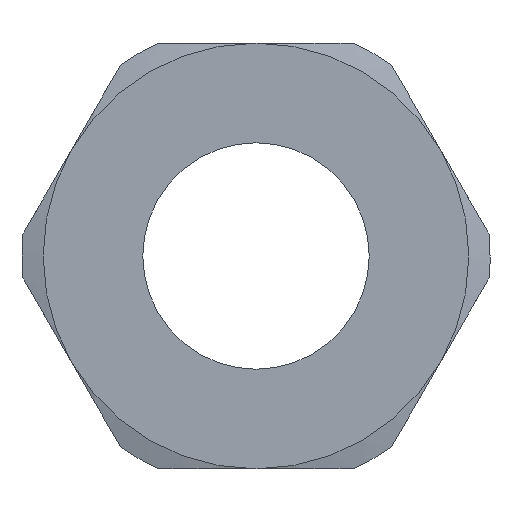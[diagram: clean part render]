
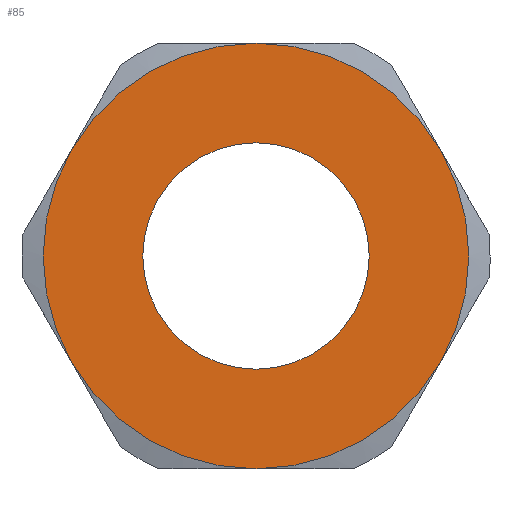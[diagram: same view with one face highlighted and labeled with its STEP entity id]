
A CAD part, left-side view. The second image highlights one B-rep face of the part: STEP entity #85.
In plain terms, the highlighted planar face has unit normal (-1, 0, 0).
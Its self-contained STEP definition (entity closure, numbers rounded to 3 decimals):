
#85 = ADVANCED_FACE( '', ( #123, #124 ), #125, .F. );
#123 = FACE_OUTER_BOUND( '', #180, .T. );
#124 = FACE_BOUND( '', #181, .T. );
#125 = PLANE( '', #182 );
#180 = EDGE_LOOP( '', ( #297, #298, #299, #300, #301, #302 ) );
#181 = EDGE_LOOP( '', ( #303 ) );
#182 = AXIS2_PLACEMENT_3D( '', #304, #305, #306 );
#297 = ORIENTED_EDGE( '', *, *, #459, .F. );
#298 = ORIENTED_EDGE( '', *, *, #461, .F. );
#299 = ORIENTED_EDGE( '', *, *, #462, .F. );
#300 = ORIENTED_EDGE( '', *, *, #463, .F. );
#301 = ORIENTED_EDGE( '', *, *, #455, .F. );
#302 = ORIENTED_EDGE( '', *, *, #457, .F. );
#303 = ORIENTED_EDGE( '', *, *, #464, .T. );
#304 = CARTESIAN_POINT( '', ( 0., 0., 0. ) );
#305 = DIRECTION( '', ( 1., 0., 0. ) );
#306 = DIRECTION( '', ( 0., 0., -1. ) );
#455 = EDGE_CURVE( '', #493, #548, #549, .T. );
#457 = EDGE_CURVE( '', #543, #493, #551, .T. );
#459 = EDGE_CURVE( '', #534, #543, #553, .T. );
#461 = EDGE_CURVE( '', #513, #534, #555, .T. );
#462 = EDGE_CURVE( '', #525, #513, #556, .T. );
#463 = EDGE_CURVE( '', #548, #525, #557, .T. );
#464 = EDGE_CURVE( '', #558, #558, #559, .T. );
#493 = VERTEX_POINT( '', #601 );
#513 = VERTEX_POINT( '', #641 );
#525 = VERTEX_POINT( '', #667 );
#534 = VERTEX_POINT( '', #687 );
#543 = VERTEX_POINT( '', #707 );
#548 = VERTEX_POINT( '', #718 );
#549 = CIRCLE( '', #719, 6.5 );
#551 = CIRCLE( '', #724, 6.5 );
#553 = CIRCLE( '', #726, 6.5 );
#555 = CIRCLE( '', #728, 6.5 );
#556 = CIRCLE( '', #729, 6.5 );
#557 = CIRCLE( '', #730, 6.5 );
#558 = VERTEX_POINT( '', #731 );
#559 = CIRCLE( '', #732, 3.459 );
#601 = CARTESIAN_POINT( '', ( 0., 0., 6.5 ) );
#641 = CARTESIAN_POINT( '', ( 0., 0., -6.5 ) );
#667 = CARTESIAN_POINT( '', ( 0., -5.629, -3.25 ) );
#687 = CARTESIAN_POINT( '', ( 0., 5.629, -3.25 ) );
#707 = CARTESIAN_POINT( '', ( 0., 5.629, 3.25 ) );
#718 = CARTESIAN_POINT( '', ( 0., -5.629, 3.25 ) );
#719 = AXIS2_PLACEMENT_3D( '', #787, #788, #789 );
#724 = AXIS2_PLACEMENT_3D( '', #790, #791, #792 );
#726 = AXIS2_PLACEMENT_3D( '', #796, #797, #798 );
#728 = AXIS2_PLACEMENT_3D( '', #802, #803, #804 );
#729 = AXIS2_PLACEMENT_3D( '', #805, #806, #807 );
#730 = AXIS2_PLACEMENT_3D( '', #808, #809, #810 );
#731 = CARTESIAN_POINT( '', ( 0., 0., -3.459 ) );
#732 = AXIS2_PLACEMENT_3D( '', #811, #812, #813 );
#787 = CARTESIAN_POINT( '', ( 0., 0., 0. ) );
#788 = DIRECTION( '', ( 1., 0., 0. ) );
#789 = DIRECTION( '', ( 0., 0., -1. ) );
#790 = CARTESIAN_POINT( '', ( 0., 0., 0. ) );
#791 = DIRECTION( '', ( 1., 0., 0. ) );
#792 = DIRECTION( '', ( 0., 0., -1. ) );
#796 = CARTESIAN_POINT( '', ( 0., 0., 0. ) );
#797 = DIRECTION( '', ( 1., 0., 0. ) );
#798 = DIRECTION( '', ( 0., 0., -1. ) );
#802 = CARTESIAN_POINT( '', ( 0., 0., 0. ) );
#803 = DIRECTION( '', ( 1., 0., 0. ) );
#804 = DIRECTION( '', ( 0., 0., -1. ) );
#805 = CARTESIAN_POINT( '', ( 0., 0., 0. ) );
#806 = DIRECTION( '', ( 1., 0., 0. ) );
#807 = DIRECTION( '', ( 0., 0., -1. ) );
#808 = CARTESIAN_POINT( '', ( 0., 0., 0. ) );
#809 = DIRECTION( '', ( 1., 0., 0. ) );
#810 = DIRECTION( '', ( 0., 0., -1. ) );
#811 = CARTESIAN_POINT( '', ( 0., 0., 0. ) );
#812 = DIRECTION( '', ( 1., 0., 0. ) );
#813 = DIRECTION( '', ( 0., 0., -1. ) );
